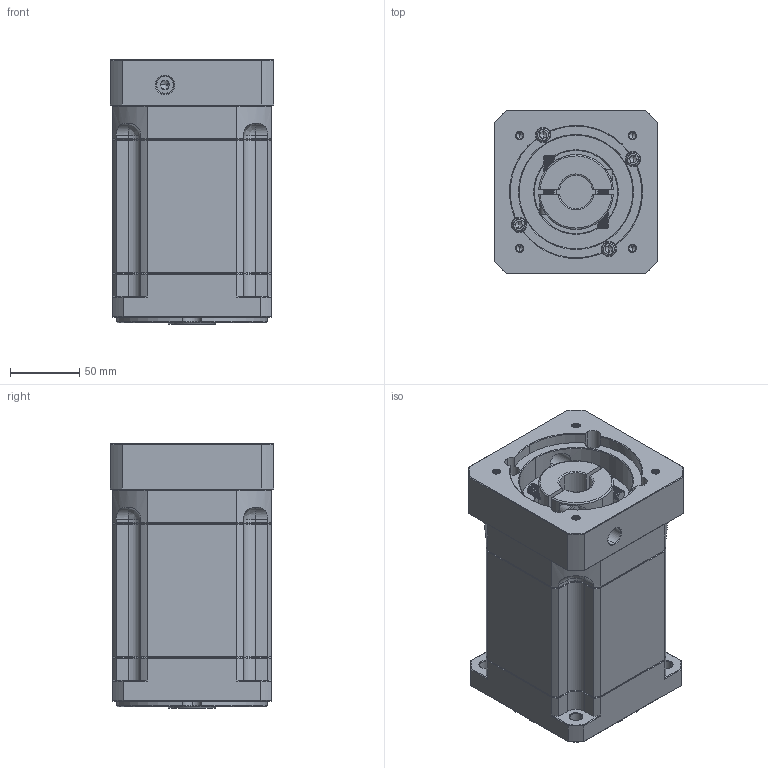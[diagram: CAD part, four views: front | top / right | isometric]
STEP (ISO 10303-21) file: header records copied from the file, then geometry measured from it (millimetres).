
FILE_DESCRIPTION (( 'STEP AP214' ), '1' );
FILE_NAME ('ZB115A-K25-L3-P2-24-95-115-M6.step', '2023-08-26T06:40:10', ( '' ), ( '' ), 'SwSTEP 2.0', 'SolidWorks 2016', '' );
FILE_SCHEMA (( 'AUTOMOTIVE_DESIGN' ));
Length unit declared in the file: millimetre
Products named in the file (1): ZB115A-K25-L3-P2-24-95-115-M6
Bounding box: 118 x 118 x 190.5 mm (x, y, z)
Volume: 2078539.6 mm3; surface area: 183605.9 mm2
Topology: 6 solids, 6 shells, 2343 faces, 6160 edges, 3913 vertices
Faces by surface type: plane 1137, bspline 414, cylinder 407, cone 365, torus 20
Entity records: 123427 total; most frequent: CARTESIAN_POINT 43161, ORIENTED_EDGE 12256, DIRECTION 9774, EDGE_CURVE 6128, LINE 3940, VECTOR 3940, VERTEX_POINT 3913, AXIS2_PLACEMENT_3D 2917
